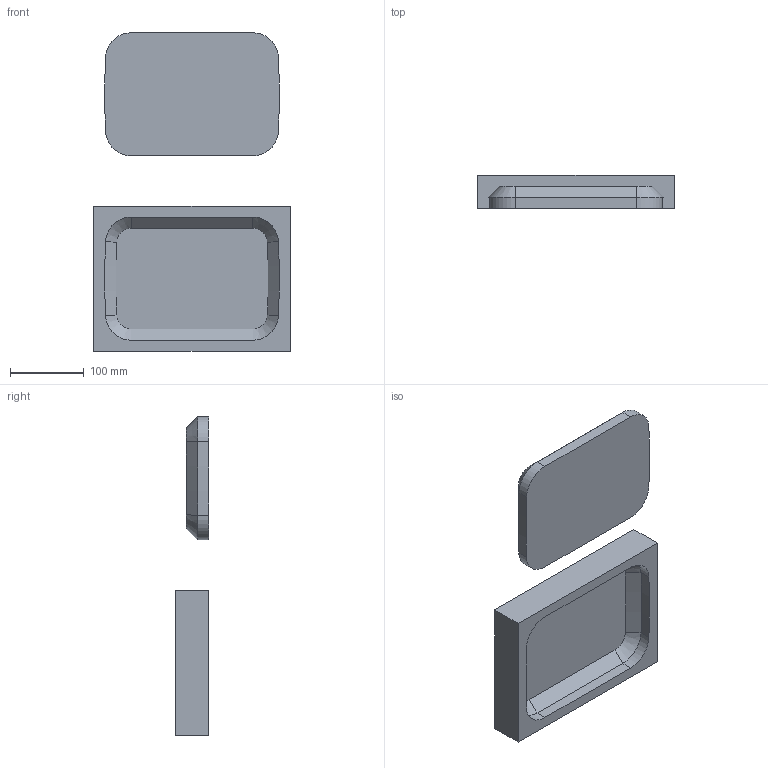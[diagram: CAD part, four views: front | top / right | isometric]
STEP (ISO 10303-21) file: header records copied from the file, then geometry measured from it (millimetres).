
FILE_DESCRIPTION (( 'STEP AP203' ), '1' );
FILE_NAME ('STA-300-168-V01.STEP', '2020-03-05T12:21:45', ( '' ), ( '' ), 'SwSTEP 2.0', 'SolidWorks 2018', '' );
FILE_SCHEMA (( 'CONFIG_CONTROL_DESIGN' ));
Length unit declared in the file: millimetre
Products named in the file (1): STA-300-168-V01
Bounding box: 267 x 45 x 432.04 mm (x, y, z)
Volume: 2366955 mm3; surface area: 254486 mm2
Topology: 2 solids, 2 shells, 41 faces, 92 edges, 56 vertices
Faces by surface type: plane 17, cylinder 12, cone 12
Entity records: 1209 total; most frequent: DIRECTION 212, CARTESIAN_POINT 190, ORIENTED_EDGE 184, EDGE_CURVE 92, AXIS2_PLACEMENT_3D 78, VECTOR 56, VERTEX_POINT 56, LINE 56
